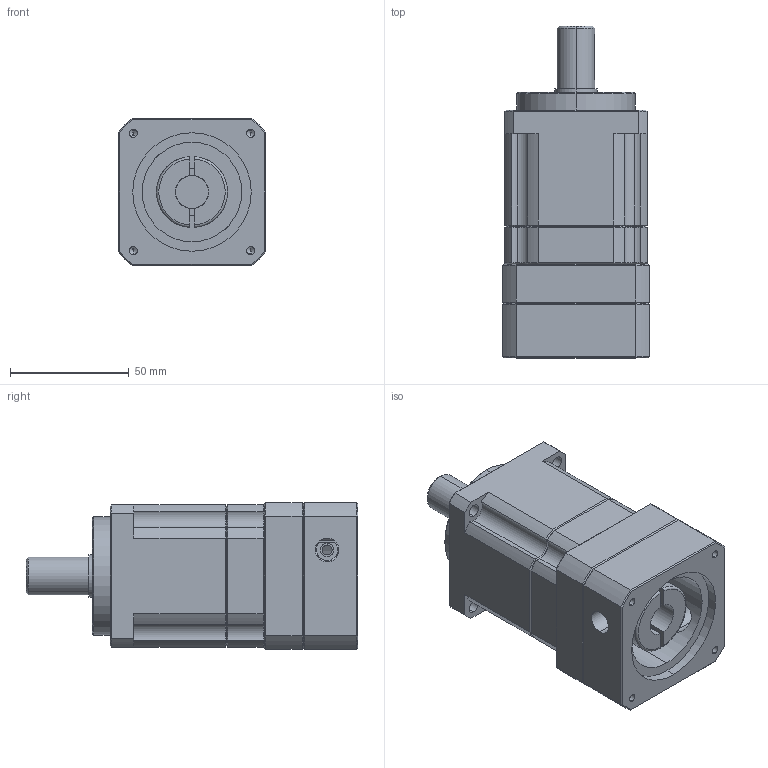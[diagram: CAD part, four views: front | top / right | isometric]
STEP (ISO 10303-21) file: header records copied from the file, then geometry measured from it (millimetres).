
FILE_DESCRIPTION (( 'STEP AP203' ), '1' );
FILE_NAME ('MF60H-L2£r50PCD£r70M4.STEP', '2014-04-21T01:28:45', ( 'KELLY' ), ( '' ), 'SwSTEP 2.0', 'SolidWorks 2012', '' );
FILE_SCHEMA (( 'CONFIG_CONTROL_DESIGN' ));
Length unit declared in the file: millimetre
Products named in the file (1): MF60H-L2｣r50PCD｣r70M4
Bounding box: 62 x 140 x 62 mm (x, y, z)
Volume: 335291.2 mm3; surface area: 57851.5 mm2
Topology: 3 solids, 3 shells, 251 faces, 594 edges, 353 vertices
Faces by surface type: cylinder 92, plane 79, cone 76, torus 4
Entity records: 7751 total; most frequent: CARTESIAN_POINT 1955, DIRECTION 1224, ORIENTED_EDGE 1168, EDGE_CURVE 584, AXIS2_PLACEMENT_3D 498, VERTEX_POINT 353, EDGE_LOOP 285, ADVANCED_FACE 251
